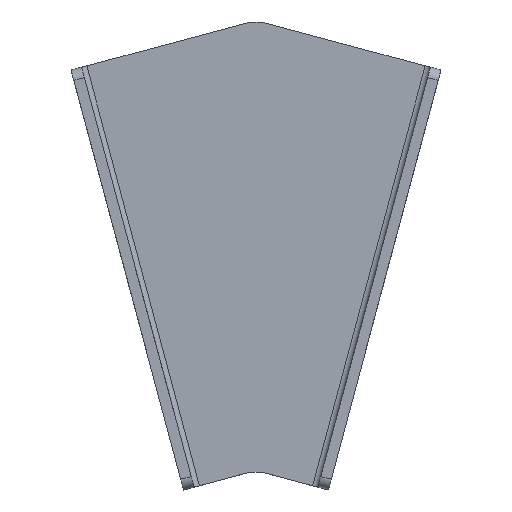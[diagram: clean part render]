
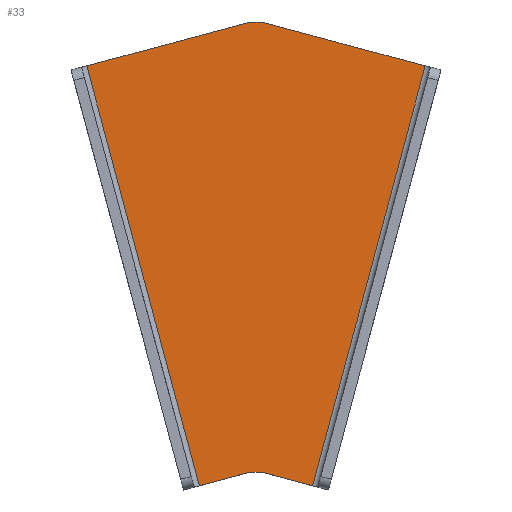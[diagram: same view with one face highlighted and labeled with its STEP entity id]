
A CAD part, top view. The second image highlights one B-rep face of the part: STEP entity #33.
In plain terms, the highlighted planar face has unit normal (0, 0, 1).
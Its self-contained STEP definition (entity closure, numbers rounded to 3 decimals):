
#25 = CARTESIAN_POINT ( 'NONE',  ( 13.164, 33.42, 3. ) ) ;
#33 = ADVANCED_FACE ( 'NONE', ( #468 ), #1189, .T. ) ;
#65 = ORIENTED_EDGE ( 'NONE', *, *, #957, .F. ) ;
#68 = CARTESIAN_POINT ( 'NONE',  ( 23.238, -86.727, 3. ) ) ;
#110 = ORIENTED_EDGE ( 'NONE', *, *, #146, .T. ) ;
#121 = VERTEX_POINT ( 'NONE', #25 ) ;
#128 = ORIENTED_EDGE ( 'NONE', *, *, #1147, .T. ) ;
#146 = EDGE_CURVE ( 'NONE', #239, #1707, #1389, .T. ) ;
#205 = ORIENTED_EDGE ( 'NONE', *, *, #1404, .T. ) ;
#220 = AXIS2_PLACEMENT_3D ( 'NONE', #1519, #732, #1658 ) ;
#239 = VERTEX_POINT ( 'NONE', #1168 ) ;
#255 = CARTESIAN_POINT ( 'NONE',  ( -5.077, -94.314, 3. ) ) ;
#257 = VERTEX_POINT ( 'NONE', #265 ) ;
#265 = CARTESIAN_POINT ( 'NONE',  ( 13.164, -90.814, 3. ) ) ;
#289 = LINE ( 'NONE', #484, #1068 ) ;
#302 = ORIENTED_EDGE ( 'NONE', *, *, #1478, .T. ) ;
#450 = VERTEX_POINT ( 'NONE', #457 ) ;
#457 = CARTESIAN_POINT ( 'NONE',  ( 26.229, -94.314, 3. ) ) ;
#468 = FACE_OUTER_BOUND ( 'NONE', #534, .T. ) ;
#470 = CARTESIAN_POINT ( 'NONE',  ( 7.988, -90.814, 3. ) ) ;
#472 = EDGE_CURVE ( 'NONE', #794, #121, #1515, .T. ) ;
#479 = DIRECTION ( 'NONE',  ( 0.966, 0.259, 0. ) ) ;
#484 = CARTESIAN_POINT ( 'NONE',  ( -7.82, 29.184, 3. ) ) ;
#486 = DIRECTION ( 'NONE',  ( 0.966, -0.259, 0. ) ) ;
#534 = EDGE_LOOP ( 'NONE', ( #65, #110, #876, #128, #302, #1286, #1074, #205 ) ) ;
#576 = CARTESIAN_POINT ( 'NONE',  ( -5.077, -94.314, 3. ) ) ;
#584 = AXIS2_PLACEMENT_3D ( 'NONE', #1480, #1066, #1473 ) ;
#595 = DIRECTION ( 'NONE',  ( 0.259, 0.966, 0. ) ) ;
#600 = CARTESIAN_POINT ( 'NONE',  ( 9.237, 34.472, 3. ) ) ;
#608 = DIRECTION ( 'NONE',  ( 0.966, 0.259, 0. ) ) ;
#654 = DIRECTION ( 'NONE',  ( 0., 0., -1. ) ) ;
#732 = DIRECTION ( 'NONE',  ( 0., 0., 1. ) ) ;
#776 = EDGE_CURVE ( 'NONE', #450, #794, #1016, .T. ) ;
#794 = VERTEX_POINT ( 'NONE', #858 ) ;
#803 = VERTEX_POINT ( 'NONE', #470 ) ;
#850 = CARTESIAN_POINT ( 'NONE',  ( 57.288, 21.597, 3. ) ) ;
#858 = CARTESIAN_POINT ( 'NONE',  ( 57.288, 21.597, 3. ) ) ;
#876 = ORIENTED_EDGE ( 'NONE', *, *, #922, .T. ) ;
#922 = EDGE_CURVE ( 'NONE', #1707, #803, #1331, .T. ) ;
#957 = EDGE_CURVE ( 'NONE', #239, #1543, #289, .T. ) ;
#996 = VECTOR ( 'NONE', #479, 1000. ) ;
#1016 = LINE ( 'NONE', #850, #1596 ) ;
#1046 = CIRCLE ( 'NONE', #1159, 10. ) ;
#1066 = DIRECTION ( 'NONE',  ( 0., 0., 1. ) ) ;
#1068 = VECTOR ( 'NONE', #608, 1000. ) ;
#1074 = ORIENTED_EDGE ( 'NONE', *, *, #472, .T. ) ;
#1146 = VECTOR ( 'NONE', #1518, 1000. ) ;
#1147 = EDGE_CURVE ( 'NONE', #803, #257, #1046, .T. ) ;
#1159 = AXIS2_PLACEMENT_3D ( 'NONE', #1437, #654, #1576 ) ;
#1168 = CARTESIAN_POINT ( 'NONE',  ( -36.136, 21.597, 3. ) ) ;
#1189 = PLANE ( 'NONE',  #584 ) ;
#1200 = LINE ( 'NONE', #1256, #1571 ) ;
#1256 = CARTESIAN_POINT ( 'NONE',  ( -21.822, -81.439, 3. ) ) ;
#1286 = ORIENTED_EDGE ( 'NONE', *, *, #776, .T. ) ;
#1331 = LINE ( 'NONE', #68, #996 ) ;
#1336 = VECTOR ( 'NONE', #1538, 1000. ) ;
#1389 = LINE ( 'NONE', #255, #1336 ) ;
#1404 = EDGE_CURVE ( 'NONE', #121, #1543, #1698, .T. ) ;
#1437 = CARTESIAN_POINT ( 'NONE',  ( 10.576, -100.473, 3. ) ) ;
#1473 = DIRECTION ( 'NONE',  ( 1., 0., 0. ) ) ;
#1478 = EDGE_CURVE ( 'NONE', #257, #450, #1200, .T. ) ;
#1480 = CARTESIAN_POINT ( 'NONE',  ( 0., 0., 3. ) ) ;
#1515 = LINE ( 'NONE', #600, #1146 ) ;
#1518 = DIRECTION ( 'NONE',  ( -0.966, 0.259, 0. ) ) ;
#1519 = CARTESIAN_POINT ( 'NONE',  ( 10.576, 23.76, 3. ) ) ;
#1538 = DIRECTION ( 'NONE',  ( 0.259, -0.966, 0. ) ) ;
#1543 = VERTEX_POINT ( 'NONE', #1549 ) ;
#1549 = CARTESIAN_POINT ( 'NONE',  ( 7.988, 33.42, 3. ) ) ;
#1571 = VECTOR ( 'NONE', #486, 1000. ) ;
#1576 = DIRECTION ( 'NONE',  ( 1., 0., 0. ) ) ;
#1596 = VECTOR ( 'NONE', #595, 1000. ) ;
#1658 = DIRECTION ( 'NONE',  ( 1., 0., 0. ) ) ;
#1698 = CIRCLE ( 'NONE', #220, 10. ) ;
#1707 = VERTEX_POINT ( 'NONE', #576 ) ;
